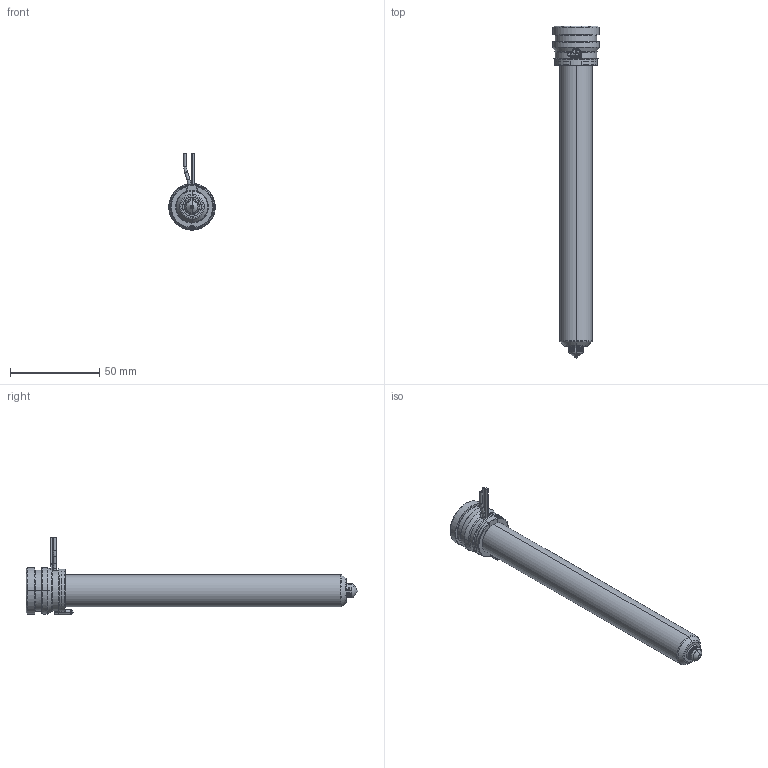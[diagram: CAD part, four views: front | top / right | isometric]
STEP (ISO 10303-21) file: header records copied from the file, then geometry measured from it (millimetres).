
FILE_DESCRIPTION((''),'2;1');
FILE_NAME('MPN-08-24-TX8-166-A','2026-02-05T11:55:16',('UPTIO'),('Thermoplay S.p.A.'),'CREO PARAMETRIC BY PTC INC, 2023494','CREO PARAMETRIC BY PTC INC, 2023494','');
FILE_SCHEMA(('CONFIG_CONTROL_DESIGN','SHAPE_APPEARANCE_LAYERS_GROUPS'));
Length unit declared in the file: millimetre
Products named in the file (1): MPN-08-24-TX8-166-A
Bounding box: 26 x 185.5 x 43.5 mm (x, y, z)
Volume: 34643.9 mm3; surface area: 45223.9 mm2
Topology: 2 solids, 3 shells, 548 faces, 1458 edges, 904 vertices
Faces by surface type: cylinder 180, plane 144, bspline 82, torus 64, cone 60, sphere 12, extrusion 6
Entity records: 29962 total; most frequent: CARTESIAN_POINT 13616, ORIENTED_EDGE 2896, DIRECTION 2574, EDGE_CURVE 1448, AXIS2_PLACEMENT_3D 1006, VERTEX_POINT 904, EDGE_LOOP 576, VECTOR 562
